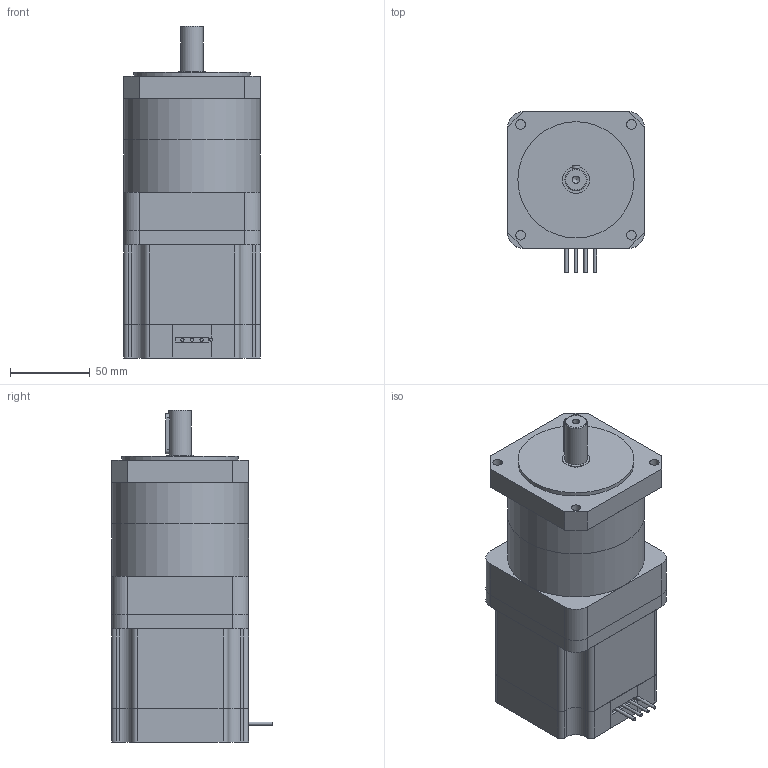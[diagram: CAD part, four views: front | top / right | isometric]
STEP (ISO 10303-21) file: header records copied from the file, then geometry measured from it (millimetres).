
FILE_DESCRIPTION(/* description */ (''),/* implementation_level */ '2;1');
FILE_NAME(/* name */ 'T86PG040-D44-0480.stp',/* time_stamp */ '2018-08-29T14:53:58+08:00',/* author */ (''),/* organization */ (''),/* preprocessor_version */ 'ST-DEVELOPER v11',/* originating_system */ 'SIEMENS UGS NX 6.0',/* authorisation */ '');
FILE_SCHEMA (('CONFIG_CONTROL_DESIGN'));
Length unit declared in the file: millimetre
Products named in the file (1): T86PG015-D44-0480
Bounding box: 86 x 101 x 208.5 mm (x, y, z)
Volume: 1178052.9 mm3; surface area: 139696.2 mm2
Topology: 6 solids, 6 shells, 126 faces, 316 edges, 210 vertices
Faces by surface type: plane 76, cylinder 48, cone 1, torus 1
Full cylindrical faces by diameter (mm): 2 x4, 4.5 x1, 6 x4, 14 x1, 17 x1, 73 x1, 86 x2
Entity records: 3792 total; most frequent: CARTESIAN_POINT 684, DIRECTION 644, ORIENTED_EDGE 586, EDGE_CURVE 293, AXIS2_PLACEMENT_3D 226, VERTEX_POINT 204, LINE 192, VECTOR 192
